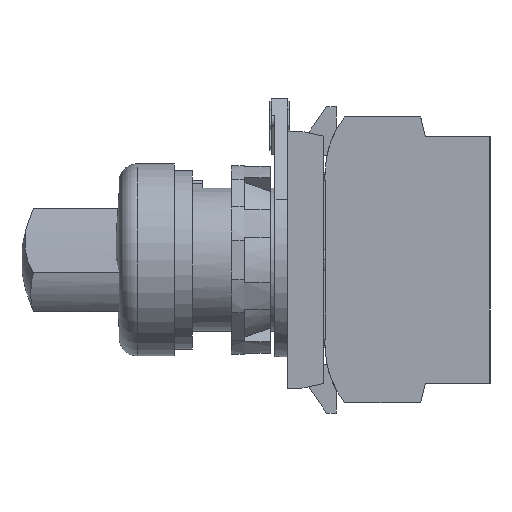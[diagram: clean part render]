
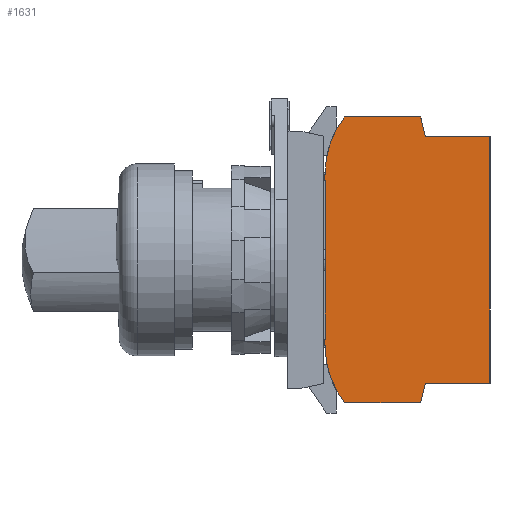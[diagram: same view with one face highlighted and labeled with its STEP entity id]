
A CAD part, left-side view. The second image highlights one B-rep face of the part: STEP entity #1631.
In plain terms, the highlighted planar face has unit normal (-1, 0, 0) as drawn and (0, 0, -1) by its records, which use the part's own axes.
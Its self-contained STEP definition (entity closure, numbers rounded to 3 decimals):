
#30 = DIRECTION ( 'NONE',  ( -1., 0., 0. ) ) ;
#50 = AXIS2_PLACEMENT_3D ( 'NONE', #1503, #13344, #3190 ) ;
#162 = EDGE_CURVE ( 'NONE', #17458, #4977, #12338, .T. ) ;
#256 = VERTEX_POINT ( 'NONE', #14565 ) ;
#302 = FACE_OUTER_BOUND ( 'NONE', #20012, .T. ) ;
#787 = VECTOR ( 'NONE', #1266, 1000. ) ;
#1045 = VERTEX_POINT ( 'NONE', #17675 ) ;
#1266 = DIRECTION ( 'NONE',  ( 0., 1., 0. ) ) ;
#1434 = LINE ( 'NONE', #21224, #5958 ) ;
#1492 = VECTOR ( 'NONE', #19163, 1000. ) ;
#1503 = CARTESIAN_POINT ( 'NONE',  ( -13.2, -14.407, -4.95 ) ) ;
#1631 = ADVANCED_FACE ( 'NONE', ( #302 ), #2154, .T. ) ;
#1648 = CARTESIAN_POINT ( 'NONE',  ( -12.2, 0., -4.95 ) ) ;
#1905 = ORIENTED_EDGE ( 'NONE', *, *, #4927, .F. ) ;
#2063 = ORIENTED_EDGE ( 'NONE', *, *, #15138, .F. ) ;
#2154 = PLANE ( 'NONE',  #3816 ) ;
#3190 = DIRECTION ( 'NONE',  ( 1., 0., 0. ) ) ;
#3387 = LINE ( 'NONE', #12660, #7932 ) ;
#3527 = ORIENTED_EDGE ( 'NONE', *, *, #19359, .F. ) ;
#3655 = ORIENTED_EDGE ( 'NONE', *, *, #13850, .F. ) ;
#3816 = AXIS2_PLACEMENT_3D ( 'NONE', #5479, #13985, #3834 ) ;
#3834 = DIRECTION ( 'NONE',  ( -1., 0., 0. ) ) ;
#3935 = CARTESIAN_POINT ( 'NONE',  ( 22., -14.7, -4.95 ) ) ;
#4133 = LINE ( 'NONE', #5012, #8119 ) ;
#4151 = EDGE_CURVE ( 'NONE', #12934, #18678, #9478, .T. ) ;
#4254 = CARTESIAN_POINT ( 'NONE',  ( 19., -25.4, -4.95 ) ) ;
#4300 = CIRCLE ( 'NONE', #50, 14.407 ) ;
#4515 = DIRECTION ( 'NONE',  ( -1., 0., 0. ) ) ;
#4769 = CARTESIAN_POINT ( 'NONE',  ( 22., -3., -4.95 ) ) ;
#4779 = DIRECTION ( 'NONE',  ( 0.97, -0.242, 0. ) ) ;
#4927 = EDGE_CURVE ( 'NONE', #5302, #7441, #9428, .T. ) ;
#4977 = VERTEX_POINT ( 'NONE', #20326 ) ;
#5012 = CARTESIAN_POINT ( 'NONE',  ( 12.2, 0., -4.95 ) ) ;
#5064 = DIRECTION ( 'NONE',  ( -1., 0., 0. ) ) ;
#5092 = DIRECTION ( 'NONE',  ( 0., 1., 0. ) ) ;
#5302 = VERTEX_POINT ( 'NONE', #17345 ) ;
#5339 = LINE ( 'NONE', #21988, #9861 ) ;
#5479 = CARTESIAN_POINT ( 'NONE',  ( 13.2, -14.407, -4.95 ) ) ;
#5601 = CARTESIAN_POINT ( 'NONE',  ( -19., -25.4, -4.95 ) ) ;
#5714 = ORIENTED_EDGE ( 'NONE', *, *, #21140, .F. ) ;
#5719 = AXIS2_PLACEMENT_3D ( 'NONE', #5813, #17665, #7512 ) ;
#5813 = CARTESIAN_POINT ( 'NONE',  ( 13.2, -14.407, -4.95 ) ) ;
#5881 = EDGE_CURVE ( 'NONE', #9171, #13880, #10166, .T. ) ;
#5958 = VECTOR ( 'NONE', #14441, 1000. ) ;
#6033 = CARTESIAN_POINT ( 'NONE',  ( 19., -15.448, -4.95 ) ) ;
#6326 = ORIENTED_EDGE ( 'NONE', *, *, #18761, .F. ) ;
#6725 = EDGE_CURVE ( 'NONE', #7441, #1045, #5339, .T. ) ;
#6821 = CARTESIAN_POINT ( 'NONE',  ( -12.2, 0., -4.95 ) ) ;
#6951 = VECTOR ( 'NONE', #5092, 1000. ) ;
#7441 = VERTEX_POINT ( 'NONE', #12807 ) ;
#7512 = DIRECTION ( 'NONE',  ( -1., 0., 0. ) ) ;
#7606 = CARTESIAN_POINT ( 'NONE',  ( -13.2, 0., -4.95 ) ) ;
#7633 = DIRECTION ( 'NONE',  ( 0., -1., 0. ) ) ;
#7689 = CARTESIAN_POINT ( 'NONE',  ( -22., -3., -4.95 ) ) ;
#7796 = VECTOR ( 'NONE', #4779, 1000. ) ;
#7932 = VECTOR ( 'NONE', #7633, 1000. ) ;
#8119 = VECTOR ( 'NONE', #10146, 1000. ) ;
#8587 = VECTOR ( 'NONE', #4515, 1000. ) ;
#8649 = CARTESIAN_POINT ( 'NONE',  ( -13.2, 0.1, -4.95 ) ) ;
#9171 = VERTEX_POINT ( 'NONE', #20739 ) ;
#9199 = ORIENTED_EDGE ( 'NONE', *, *, #17748, .F. ) ;
#9366 = VERTEX_POINT ( 'NONE', #16052 ) ;
#9428 = LINE ( 'NONE', #21828, #13903 ) ;
#9440 = LINE ( 'NONE', #4769, #18442 ) ;
#9478 = LINE ( 'NONE', #17475, #1492 ) ;
#9861 = VECTOR ( 'NONE', #5064, 1000. ) ;
#10146 = DIRECTION ( 'NONE',  ( 0., -1., 0. ) ) ;
#10166 = LINE ( 'NONE', #6821, #14115 ) ;
#10353 = CARTESIAN_POINT ( 'NONE',  ( 22., -3., -4.95 ) ) ;
#10779 = ORIENTED_EDGE ( 'NONE', *, *, #6725, .F. ) ;
#10961 = EDGE_CURVE ( 'NONE', #9366, #256, #12305, .T. ) ;
#11119 = VERTEX_POINT ( 'NONE', #10353 ) ;
#11866 = ORIENTED_EDGE ( 'NONE', *, *, #4151, .F. ) ;
#11950 = ORIENTED_EDGE ( 'NONE', *, *, #19978, .F. ) ;
#12305 = LINE ( 'NONE', #16633, #7796 ) ;
#12338 = LINE ( 'NONE', #7606, #15763 ) ;
#12660 = CARTESIAN_POINT ( 'NONE',  ( -22., -3., -4.95 ) ) ;
#12807 = CARTESIAN_POINT ( 'NONE',  ( 13.2, 0.1, -4.95 ) ) ;
#12934 = VERTEX_POINT ( 'NONE', #6033 ) ;
#13344 = DIRECTION ( 'NONE',  ( 0., 0., 1. ) ) ;
#13850 = EDGE_CURVE ( 'NONE', #20382, #13983, #15341, .T. ) ;
#13880 = VERTEX_POINT ( 'NONE', #15884 ) ;
#13903 = VECTOR ( 'NONE', #16698, 1000. ) ;
#13931 = ORIENTED_EDGE ( 'NONE', *, *, #18322, .F. ) ;
#13983 = VERTEX_POINT ( 'NONE', #4254 ) ;
#13985 = DIRECTION ( 'NONE',  ( 0., 0., -1. ) ) ;
#14115 = VECTOR ( 'NONE', #30, 1000. ) ;
#14314 = LINE ( 'NONE', #1648, #787 ) ;
#14441 = DIRECTION ( 'NONE',  ( 0., -1., 0. ) ) ;
#14565 = CARTESIAN_POINT ( 'NONE',  ( -19., -15.448, -4.95 ) ) ;
#15138 = EDGE_CURVE ( 'NONE', #13983, #12934, #20455, .T. ) ;
#15341 = LINE ( 'NONE', #5601, #19336 ) ;
#15362 = CIRCLE ( 'NONE', #5719, 14.407 ) ;
#15632 = ORIENTED_EDGE ( 'NONE', *, *, #22014, .F. ) ;
#15763 = VECTOR ( 'NONE', #19464, 1000. ) ;
#15884 = CARTESIAN_POINT ( 'NONE',  ( -12.2, 0., -4.95 ) ) ;
#15937 = EDGE_CURVE ( 'NONE', #11119, #5302, #15362, .T. ) ;
#16052 = CARTESIAN_POINT ( 'NONE',  ( -22., -14.7, -4.95 ) ) ;
#16633 = CARTESIAN_POINT ( 'NONE',  ( -22., -14.7, -4.95 ) ) ;
#16698 = DIRECTION ( 'NONE',  ( 0., 1., 0. ) ) ;
#17066 = LINE ( 'NONE', #18074, #8587 ) ;
#17345 = CARTESIAN_POINT ( 'NONE',  ( 13.2, 0., -4.95 ) ) ;
#17458 = VERTEX_POINT ( 'NONE', #8649 ) ;
#17475 = CARTESIAN_POINT ( 'NONE',  ( 19., -15.448, -4.95 ) ) ;
#17665 = DIRECTION ( 'NONE',  ( 0., 0., 1. ) ) ;
#17675 = CARTESIAN_POINT ( 'NONE',  ( 12.2, 0.1, -4.95 ) ) ;
#17748 = EDGE_CURVE ( 'NONE', #1045, #9171, #4133, .T. ) ;
#17925 = CARTESIAN_POINT ( 'NONE',  ( -19., -25.4, -4.95 ) ) ;
#18074 = CARTESIAN_POINT ( 'NONE',  ( -13.2, 0.1, -4.95 ) ) ;
#18322 = EDGE_CURVE ( 'NONE', #18678, #11119, #9440, .T. ) ;
#18345 = DIRECTION ( 'NONE',  ( 0., 1., 0. ) ) ;
#18442 = VECTOR ( 'NONE', #18345, 1000. ) ;
#18457 = ORIENTED_EDGE ( 'NONE', *, *, #5881, .F. ) ;
#18575 = ORIENTED_EDGE ( 'NONE', *, *, #10961, .F. ) ;
#18678 = VERTEX_POINT ( 'NONE', #3935 ) ;
#18761 = EDGE_CURVE ( 'NONE', #256, #20382, #1434, .T. ) ;
#19158 = DIRECTION ( 'NONE',  ( 1., 0., 0. ) ) ;
#19163 = DIRECTION ( 'NONE',  ( 0.97, 0.242, 0. ) ) ;
#19196 = ORIENTED_EDGE ( 'NONE', *, *, #15937, .F. ) ;
#19336 = VECTOR ( 'NONE', #19158, 1000. ) ;
#19359 = EDGE_CURVE ( 'NONE', #20006, #17458, #17066, .T. ) ;
#19464 = DIRECTION ( 'NONE',  ( 0., -1., 0. ) ) ;
#19789 = VERTEX_POINT ( 'NONE', #7689 ) ;
#19855 = ORIENTED_EDGE ( 'NONE', *, *, #162, .F. ) ;
#19978 = EDGE_CURVE ( 'NONE', #4977, #19789, #4300, .T. ) ;
#20006 = VERTEX_POINT ( 'NONE', #21906 ) ;
#20012 = EDGE_LOOP ( 'NONE', ( #19196, #13931, #11866, #2063, #3655, #6326, #18575, #15632, #11950, #19855, #3527, #5714, #18457, #9199, #10779, #1905 ) ) ;
#20284 = CARTESIAN_POINT ( 'NONE',  ( 19., -15.448, -4.95 ) ) ;
#20326 = CARTESIAN_POINT ( 'NONE',  ( -13.2, 0., -4.95 ) ) ;
#20382 = VERTEX_POINT ( 'NONE', #17925 ) ;
#20455 = LINE ( 'NONE', #20284, #6951 ) ;
#20739 = CARTESIAN_POINT ( 'NONE',  ( 12.2, 0., -4.95 ) ) ;
#21140 = EDGE_CURVE ( 'NONE', #13880, #20006, #14314, .T. ) ;
#21224 = CARTESIAN_POINT ( 'NONE',  ( -19., -15.448, -4.95 ) ) ;
#21828 = CARTESIAN_POINT ( 'NONE',  ( 13.2, 0., -4.95 ) ) ;
#21906 = CARTESIAN_POINT ( 'NONE',  ( -12.2, 0.1, -4.95 ) ) ;
#21988 = CARTESIAN_POINT ( 'NONE',  ( 13.2, 0.1, -4.95 ) ) ;
#22014 = EDGE_CURVE ( 'NONE', #19789, #9366, #3387, .T. ) ;
